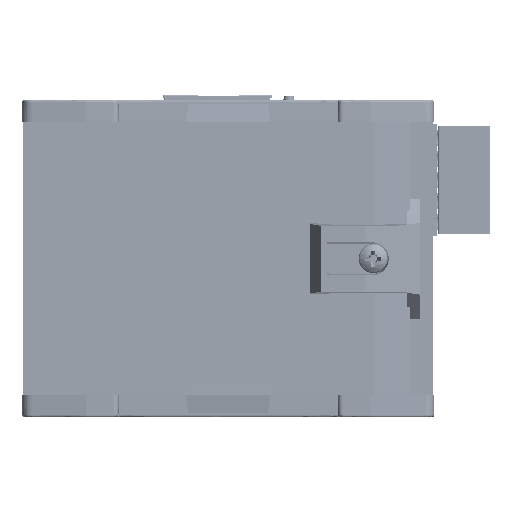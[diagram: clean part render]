
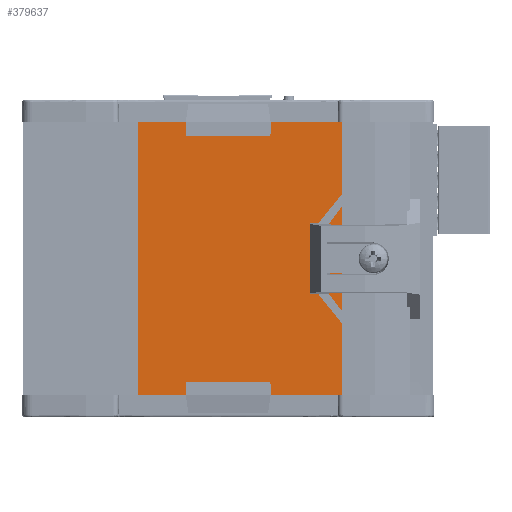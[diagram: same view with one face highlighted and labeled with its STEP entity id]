
A CAD part, left-side view. The second image highlights one B-rep face of the part: STEP entity #379637.
In plain terms, the highlighted planar face has unit normal (-1, 0, 0).
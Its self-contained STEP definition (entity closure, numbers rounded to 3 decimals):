
#373848 = PLANE('',#373849);
#373849 = AXIS2_PLACEMENT_3D('',#373850,#373851,#373852);
#373850 = CARTESIAN_POINT('',(-3.808,36.,51.));
#373851 = DIRECTION('',(0.,0.,-1.));
#373852 = DIRECTION('',(-1.,0.,0.));
#373907 = PLANE('',#373908);
#373908 = AXIS2_PLACEMENT_3D('',#373909,#373910,#373911);
#373909 = CARTESIAN_POINT('',(-3.808,36.,1.));
#373910 = DIRECTION('',(0.,0.,-1.));
#373911 = DIRECTION('',(-1.,0.,0.));
#375791 = VERTEX_POINT('',#375792);
#375792 = CARTESIAN_POINT('',(-25.228,-20.8,1.));
#375806 = PLANE('',#375807);
#375807 = AXIS2_PLACEMENT_3D('',#375808,#375809,#375810);
#375808 = CARTESIAN_POINT('',(-25.228,-20.8,1.));
#375809 = DIRECTION('',(0.,-1.,0.));
#375810 = DIRECTION('',(-1.,0.,0.));
#375818 = EDGE_CURVE('',#375819,#375791,#375821,.T.);
#375819 = VERTEX_POINT('',#375820);
#375820 = CARTESIAN_POINT('',(-25.228,16.5,1.));
#375821 = SURFACE_CURVE('',#375822,(#375826,#375833),.PCURVE_S1.);
#375822 = LINE('',#375823,#375824);
#375823 = CARTESIAN_POINT('',(-25.228,16.5,1.));
#375824 = VECTOR('',#375825,1.);
#375825 = DIRECTION('',(0.,-1.,0.));
#375826 = PCURVE('',#373907,#375827);
#375827 = DEFINITIONAL_REPRESENTATION('',(#375828),#375832);
#375828 = LINE('',#375829,#375830);
#375829 = CARTESIAN_POINT('',(21.42,-19.5));
#375830 = VECTOR('',#375831,1.);
#375831 = DIRECTION('',(0.,-1.));
#375832 = ( GEOMETRIC_REPRESENTATION_CONTEXT(2) 
PARAMETRIC_REPRESENTATION_CONTEXT() REPRESENTATION_CONTEXT('2D SPACE',''
  ) );
#375833 = PCURVE('',#375834,#375839);
#375834 = PLANE('',#375835);
#375835 = AXIS2_PLACEMENT_3D('',#375836,#375837,#375838);
#375836 = CARTESIAN_POINT('',(-25.228,16.5,1.));
#375837 = DIRECTION('',(1.,0.,0.));
#375838 = DIRECTION('',(0.,-1.,0.));
#375839 = DEFINITIONAL_REPRESENTATION('',(#375840),#375844);
#375840 = LINE('',#375841,#375842);
#375841 = CARTESIAN_POINT('',(0.,0.));
#375842 = VECTOR('',#375843,1.);
#375843 = DIRECTION('',(1.,0.));
#375844 = ( GEOMETRIC_REPRESENTATION_CONTEXT(2) 
PARAMETRIC_REPRESENTATION_CONTEXT() REPRESENTATION_CONTEXT('2D SPACE',''
  ) );
#375862 = PLANE('',#375863);
#375863 = AXIS2_PLACEMENT_3D('',#375864,#375865,#375866);
#375864 = CARTESIAN_POINT('',(-29.418,16.5,1.));
#375865 = DIRECTION('',(0.,1.,0.));
#375866 = DIRECTION('',(1.,0.,0.));
#376932 = VERTEX_POINT('',#376933);
#376933 = CARTESIAN_POINT('',(-25.228,-20.8,51.));
#376954 = EDGE_CURVE('',#376955,#376932,#376957,.T.);
#376955 = VERTEX_POINT('',#376956);
#376956 = CARTESIAN_POINT('',(-25.228,16.5,51.));
#376957 = SURFACE_CURVE('',#376958,(#376962,#376969),.PCURVE_S1.);
#376958 = LINE('',#376959,#376960);
#376959 = CARTESIAN_POINT('',(-25.228,16.5,51.));
#376960 = VECTOR('',#376961,1.);
#376961 = DIRECTION('',(0.,-1.,0.));
#376962 = PCURVE('',#373848,#376963);
#376963 = DEFINITIONAL_REPRESENTATION('',(#376964),#376968);
#376964 = LINE('',#376965,#376966);
#376965 = CARTESIAN_POINT('',(21.42,-19.5));
#376966 = VECTOR('',#376967,1.);
#376967 = DIRECTION('',(0.,-1.));
#376968 = ( GEOMETRIC_REPRESENTATION_CONTEXT(2) 
PARAMETRIC_REPRESENTATION_CONTEXT() REPRESENTATION_CONTEXT('2D SPACE',''
  ) );
#376969 = PCURVE('',#375834,#376970);
#376970 = DEFINITIONAL_REPRESENTATION('',(#376971),#376975);
#376971 = LINE('',#376972,#376973);
#376972 = CARTESIAN_POINT('',(0.,-50.));
#376973 = VECTOR('',#376974,1.);
#376974 = DIRECTION('',(1.,0.));
#376975 = ( GEOMETRIC_REPRESENTATION_CONTEXT(2) 
PARAMETRIC_REPRESENTATION_CONTEXT() REPRESENTATION_CONTEXT('2D SPACE',''
  ) );
#379614 = EDGE_CURVE('',#375791,#376932,#379615,.T.);
#379615 = SURFACE_CURVE('',#379616,(#379620,#379627),.PCURVE_S1.);
#379616 = LINE('',#379617,#379618);
#379617 = CARTESIAN_POINT('',(-25.228,-20.8,1.));
#379618 = VECTOR('',#379619,1.);
#379619 = DIRECTION('',(0.,0.,1.));
#379620 = PCURVE('',#375806,#379621);
#379621 = DEFINITIONAL_REPRESENTATION('',(#379622),#379626);
#379622 = LINE('',#379623,#379624);
#379623 = CARTESIAN_POINT('',(0.,0.));
#379624 = VECTOR('',#379625,1.);
#379625 = DIRECTION('',(0.,-1.));
#379626 = ( GEOMETRIC_REPRESENTATION_CONTEXT(2) 
PARAMETRIC_REPRESENTATION_CONTEXT() REPRESENTATION_CONTEXT('2D SPACE',''
  ) );
#379627 = PCURVE('',#375834,#379628);
#379628 = DEFINITIONAL_REPRESENTATION('',(#379629),#379633);
#379629 = LINE('',#379630,#379631);
#379630 = CARTESIAN_POINT('',(37.3,0.));
#379631 = VECTOR('',#379632,1.);
#379632 = DIRECTION('',(0.,-1.));
#379633 = ( GEOMETRIC_REPRESENTATION_CONTEXT(2) 
PARAMETRIC_REPRESENTATION_CONTEXT() REPRESENTATION_CONTEXT('2D SPACE',''
  ) );
#379637 = ADVANCED_FACE('',(#379638),#375834,.F.);
#379638 = FACE_BOUND('',#379639,.F.);
#379639 = EDGE_LOOP('',(#379640,#379661,#379662,#379663));
#379640 = ORIENTED_EDGE('',*,*,#379641,.T.);
#379641 = EDGE_CURVE('',#375819,#376955,#379642,.T.);
#379642 = SURFACE_CURVE('',#379643,(#379647,#379654),.PCURVE_S1.);
#379643 = LINE('',#379644,#379645);
#379644 = CARTESIAN_POINT('',(-25.228,16.5,1.));
#379645 = VECTOR('',#379646,1.);
#379646 = DIRECTION('',(0.,0.,1.));
#379647 = PCURVE('',#375834,#379648);
#379648 = DEFINITIONAL_REPRESENTATION('',(#379649),#379653);
#379649 = LINE('',#379650,#379651);
#379650 = CARTESIAN_POINT('',(0.,0.));
#379651 = VECTOR('',#379652,1.);
#379652 = DIRECTION('',(0.,-1.));
#379653 = ( GEOMETRIC_REPRESENTATION_CONTEXT(2) 
PARAMETRIC_REPRESENTATION_CONTEXT() REPRESENTATION_CONTEXT('2D SPACE',''
  ) );
#379654 = PCURVE('',#375862,#379655);
#379655 = DEFINITIONAL_REPRESENTATION('',(#379656),#379660);
#379656 = LINE('',#379657,#379658);
#379657 = CARTESIAN_POINT('',(4.19,0.));
#379658 = VECTOR('',#379659,1.);
#379659 = DIRECTION('',(0.,-1.));
#379660 = ( GEOMETRIC_REPRESENTATION_CONTEXT(2) 
PARAMETRIC_REPRESENTATION_CONTEXT() REPRESENTATION_CONTEXT('2D SPACE',''
  ) );
#379661 = ORIENTED_EDGE('',*,*,#376954,.T.);
#379662 = ORIENTED_EDGE('',*,*,#379614,.F.);
#379663 = ORIENTED_EDGE('',*,*,#375818,.F.);
